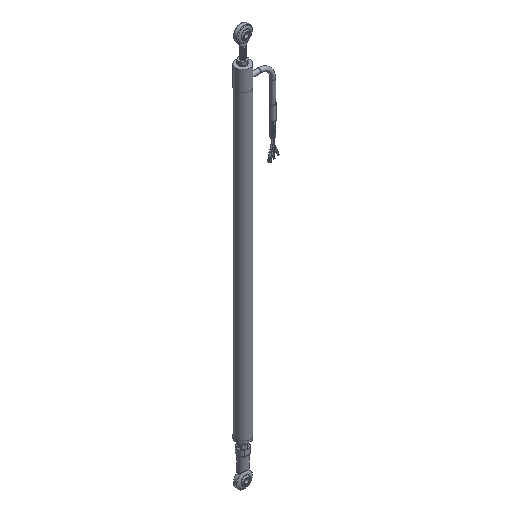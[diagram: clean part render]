
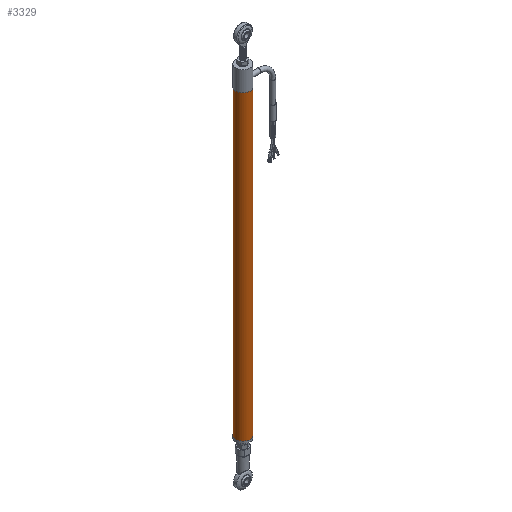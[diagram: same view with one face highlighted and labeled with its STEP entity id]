
A CAD part, isometric view. The second image highlights one B-rep face of the part: STEP entity #3329.
In plain terms, the highlighted cylindrical face has radius 6.35 mm (diameter 12.7 mm), a full revolution.
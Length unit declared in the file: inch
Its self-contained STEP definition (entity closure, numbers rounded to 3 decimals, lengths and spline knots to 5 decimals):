
#248=LINE('',#8165,#453);
#453=VECTOR('',#4234,0.25);
#633=CYLINDRICAL_SURFACE('',#3719,0.25);
#744=FACE_OUTER_BOUND('',#956,.T.);
#956=EDGE_LOOP('',(#2470,#2471,#2472,#2473,#2474));
#1140=CIRCLE('',#3711,0.25);
#1142=CIRCLE('',#3717,0.25);
#1143=CIRCLE('',#3718,0.25);
#1463=VERTEX_POINT('',#8108);
#1468=VERTEX_POINT('',#8159);
#1469=VERTEX_POINT('',#8161);
#1826=EDGE_CURVE('',#1463,#1463,#1140,.T.);
#1833=EDGE_CURVE('',#1469,#1468,#1142,.T.);
#1834=EDGE_CURVE('',#1468,#1469,#1143,.T.);
#1835=EDGE_CURVE('',#1463,#1469,#248,.T.);
#2470=ORIENTED_EDGE('',*,*,#1826,.F.);
#2471=ORIENTED_EDGE('',*,*,#1835,.T.);
#2472=ORIENTED_EDGE('',*,*,#1833,.T.);
#2473=ORIENTED_EDGE('',*,*,#1834,.T.);
#2474=ORIENTED_EDGE('',*,*,#1835,.F.);
#3329=ADVANCED_FACE('',(#744),#633,.T.);
#3711=AXIS2_PLACEMENT_3D('',#8110,#4214,#4215);
#3717=AXIS2_PLACEMENT_3D('',#8162,#4228,#4229);
#3718=AXIS2_PLACEMENT_3D('',#8163,#4230,#4231);
#3719=AXIS2_PLACEMENT_3D('',#8164,#4232,#4233);
#4214=DIRECTION('center_axis',(0.,0.,-1.));
#4215=DIRECTION('ref_axis',(-1.,0.,0.));
#4228=DIRECTION('center_axis',(0.,0.,-1.));
#4229=DIRECTION('ref_axis',(-1.,0.,0.));
#4230=DIRECTION('center_axis',(0.,0.,-1.));
#4231=DIRECTION('ref_axis',(-1.,0.,0.));
#4232=DIRECTION('center_axis',(0.,0.,-1.));
#4233=DIRECTION('ref_axis',(-1.,0.,0.));
#4234=DIRECTION('',(0.,0.,1.));
#8108=CARTESIAN_POINT('',(0.25,0.,-11.2126));
#8110=CARTESIAN_POINT('Origin',(0.,0.,-11.2126));
#8159=CARTESIAN_POINT('',(-0.25,0.,-0.7));
#8161=CARTESIAN_POINT('',(0.25,0.,-0.7));
#8162=CARTESIAN_POINT('Origin',(0.,0.,-0.7));
#8163=CARTESIAN_POINT('Origin',(0.,0.,-0.7));
#8164=CARTESIAN_POINT('Origin',(0.,0.,0.));
#8165=CARTESIAN_POINT('',(0.25,0.,0.));
